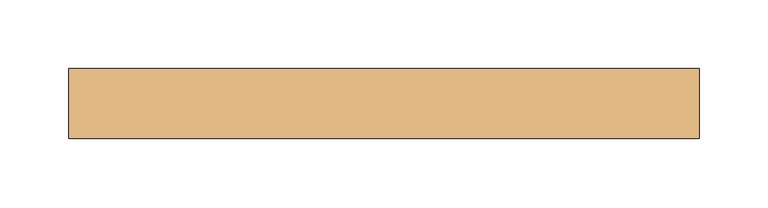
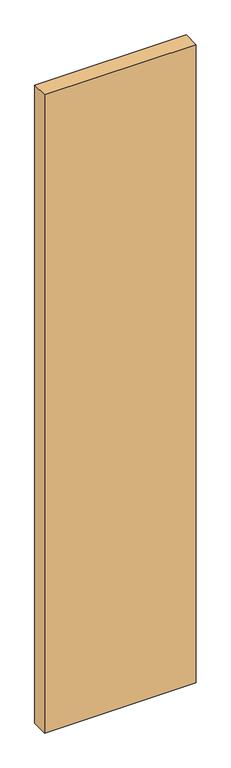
"""IFC4 building model written with IfcOpenShell, lengths in millimetres: door geometry, Planitar - Swap_Flush Panel : Planitar - Swap_Flush Panel."""

from ifc_helpers import new_model, si_unit, origin, origin_with_axes, place, context, project, spatial, polyline, outline, extrude, source, transform, mapped, element, save


def door_749a95ec(model_context):
    return source(origin(), model_context, "Body", "SweptSolid", [
        extrude(outline(polyline([(228.6, -25.4), (-228.6, -25.4), (-228.6, 25.4), (228.6, 25.4), (228.6, -25.4)])), origin_with_axes(), (0.0, 0.0, 1.0), 2032.0),
    ])


if __name__ == "__main__":
    model = new_model("IFC4")
    model_context = context("Model", 3, world=origin())
    ifc_project = project(units=[si_unit("LENGTHUNIT", "METRE", prefix="MILLI")], contexts=[model_context])
    site = spatial("IfcSite", under=ifc_project)
    building = spatial("IfcBuilding", under=site)
    placement = place(None, origin())
    door_shape = door_749a95ec(model_context)
    element("IfcDoor", 1, ObjectType="Planitar - Swap_Flush Panel : Planitar - Swap_Flush Panel", at=placement, inside=building, context=model_context, shape_type="MappedRepresentation", body=[
        mapped(door_shape, transform((0.0, 0.0, 0.0), x_axis=(1.0, 0.0, 0.0), y_axis=(0.0, 1.0, 0.0), z_axis=(0.0, 0.0, 1.0))),
    ])
    save(model, "model.ifc")
